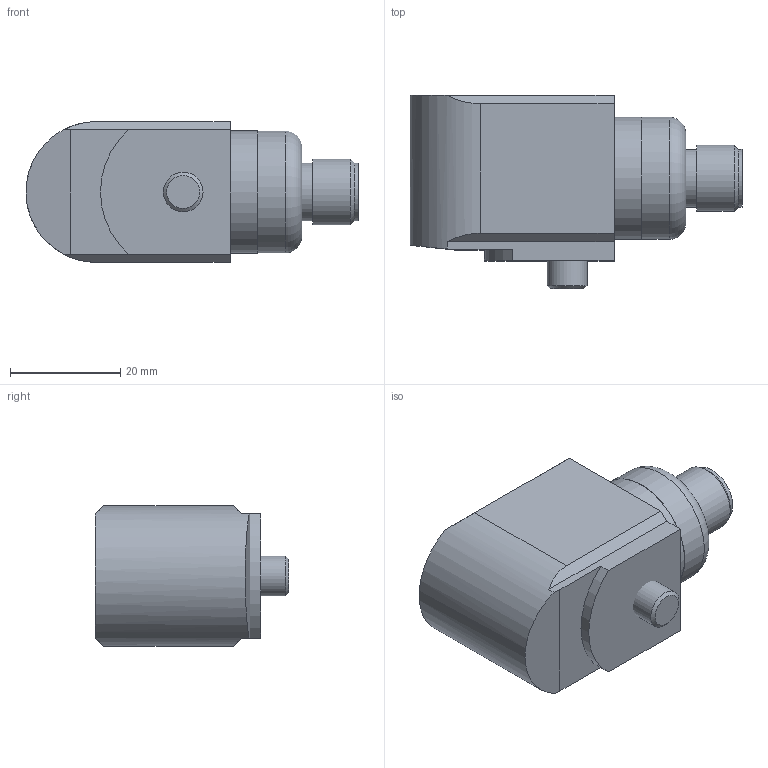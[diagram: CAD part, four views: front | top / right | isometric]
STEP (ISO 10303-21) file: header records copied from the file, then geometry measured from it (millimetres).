
FILE_DESCRIPTION(/* description */ (''),/* implementation_level */ '2;1');
FILE_NAME(/* name */ 'Z:\Engineering\Drawings\3D Library\Assemblies\Website\420 Velocity Side\HS-420SXXX5402.stp',/* time_stamp */ '2023-05-03T21:06:20+01:00',/* author */ ('Ricardo.Peneda'),/* organization */ (''),/* preprocessor_version */ 'ST-DEVELOPER v18.1',/* originating_system */ 'Autodesk Inventor 2021',/* authorisation */ '');
FILE_SCHEMA (('AUTOMOTIVE_DESIGN { 1 0 10303 214 3 1 1 }'));
Length unit declared in the file: inch
Products named in the file (1): HS-420SXXX5402_Shrinkwrap_1
Bounding box: 60.19 x 35 x 25.5 mm (x, y, z)
Volume: 21045.4 mm3; surface area: 11819 mm2
Topology: 4 solids, 4 shells, 68 faces, 165 edges, 121 vertices
Faces by surface type: plane 41, cylinder 22, cone 4, torus 1
Full cylindrical faces by diameter (mm): 4.5 x1, 5.359 x1, 7.2 x1, 9.4 x2, 10 x1, 10.496 x1, 10.5 x1, 11.2 x1, 12 x1, 15 x1, 18 x2, 19.95 x1, 20 x2, 20.4 x2, 22.2 x2
Entity records: 2206 total; most frequent: DIRECTION 395, CARTESIAN_POINT 355, ORIENTED_EDGE 330, EDGE_CURVE 165, AXIS2_PLACEMENT_3D 161, VERTEX_POINT 121, CIRCLE 87, EDGE_LOOP 86
